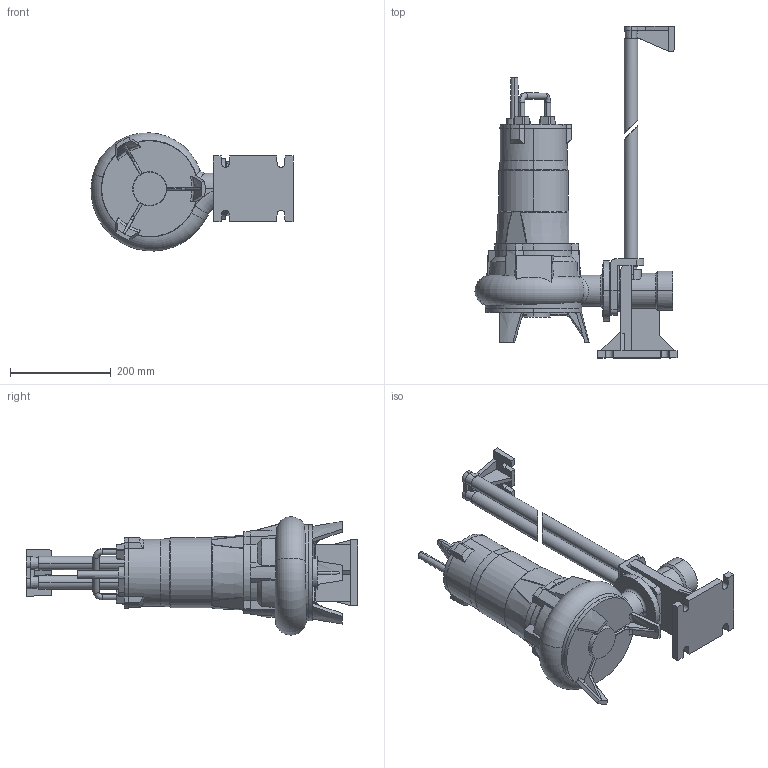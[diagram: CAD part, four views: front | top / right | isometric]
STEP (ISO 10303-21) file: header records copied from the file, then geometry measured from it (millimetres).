
FILE_DESCRIPTION (( 'STEP AP203' ), '1' );
FILE_NAME ('F202 SU PIEDE.STEP', '2025-03-20T14:41:54', ( '' ), ( '' ), 'SwSTEP 2.0', 'SolidWorks 2023', '' );
FILE_SCHEMA (( 'CONFIG_CONTROL_DESIGN' ));
Length unit declared in the file: millimetre
Products named in the file (1): F202 SU PIEDE
Bounding box: 400.26 x 657.65 x 234.05 mm (x, y, z)
Volume: 9672032.2 mm3; surface area: 621482.8 mm2
Topology: 2 solids, 4 shells, 416 faces, 1120 edges, 729 vertices
Faces by surface type: plane 218, cylinder 86, cone 75, torus 19, bspline 18
Entity records: 16107 total; most frequent: CARTESIAN_POINT 5977, ORIENTED_EDGE 2232, DIRECTION 1949, EDGE_CURVE 1116, VERTEX_POINT 729, AXIS2_PLACEMENT_3D 699, LINE 551, VECTOR 551
